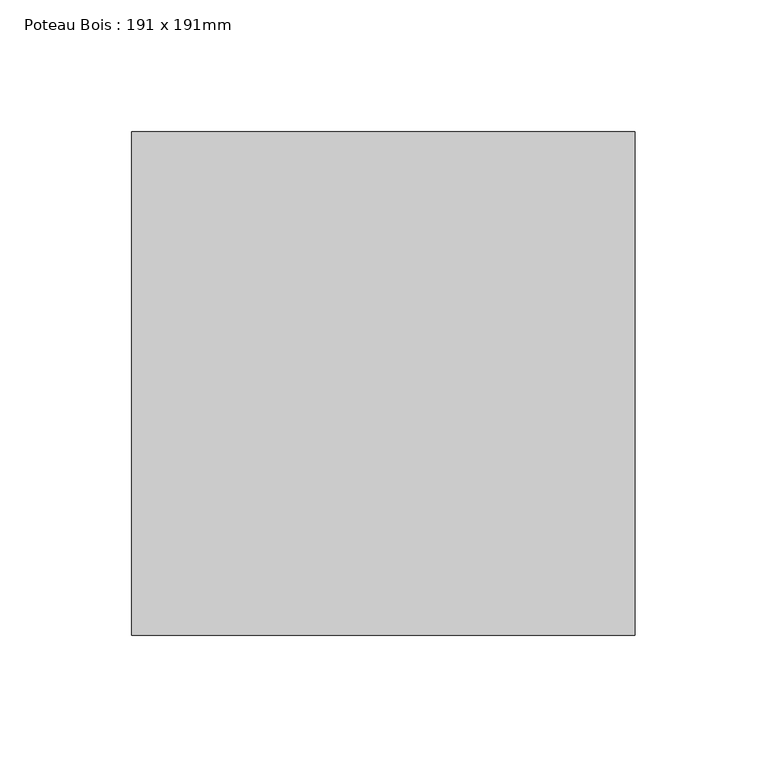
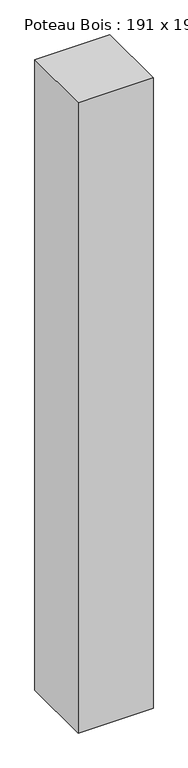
"""IFC4 building model written with IfcOpenShell, lengths in millimetres: column geometry, Poteau Bois : 191 x 191mm."""

from ifc_helpers import new_model, si_unit, frame, origin, place, context, project, spatial, polyline, outline, extrude, source, transform, mapped, element, save


def poteau_bois_191_x_191mm_e3dd8878(model_context):
    return source(origin(), model_context, "Body", "SweptSolid", [
        extrude(outline(polyline([(95.5, -95.5), (-95.5, -95.5), (-95.5, 95.5), (95.5, 95.5), (95.5, -95.5)])), frame((0.0, 0.0, 3900.0), z_axis=(0.0, 0.0, 1.0), x_axis=(1.0, 0.0, 0.0)), (0.0, 0.0, 1.0), 1700.0),
    ])


if __name__ == "__main__":
    model = new_model("IFC4")
    model_context = context("Model", 3, world=origin())
    ifc_project = project(units=[si_unit("LENGTHUNIT", "METRE", prefix="MILLI")], contexts=[model_context])
    site = spatial("IfcSite", under=ifc_project)
    building = spatial("IfcBuilding", under=site)
    placement = place(None, origin())
    poteau_bois_191_x_191mm_shape = poteau_bois_191_x_191mm_e3dd8878(model_context)
    element("IfcColumn", 1, ObjectType="Poteau Bois : 191 x 191mm", at=placement, inside=building, context=model_context, shape_type="MappedRepresentation", body=[
        mapped(poteau_bois_191_x_191mm_shape, transform((0.0, 0.0, 0.0), x_axis=(1.0, 0.0, 0.0), y_axis=(0.0, 1.0, 0.0), z_axis=(0.0, 0.0, 1.0))),
    ])
    save(model, "model.ifc")
